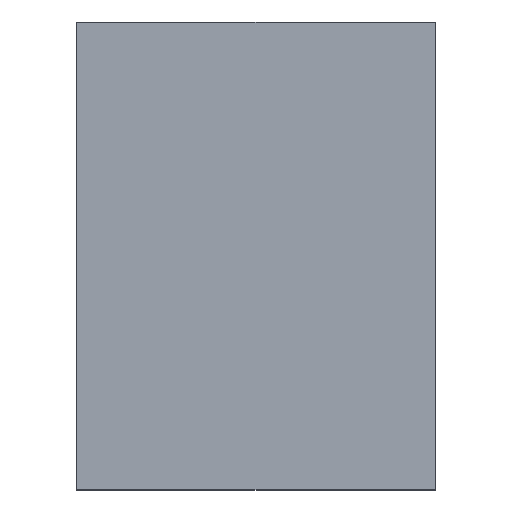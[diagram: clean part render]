
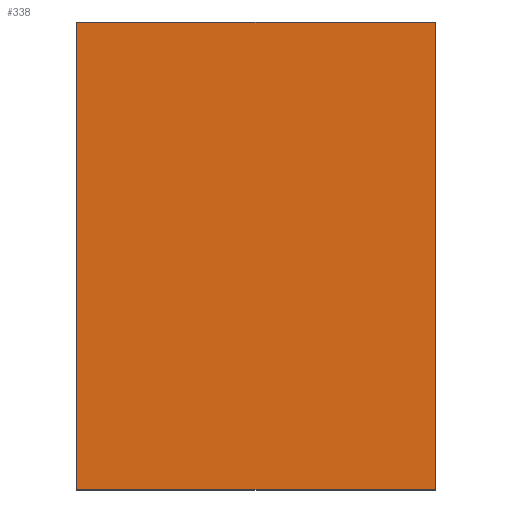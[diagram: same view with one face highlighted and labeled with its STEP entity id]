
A CAD part, top view. The second image highlights one B-rep face of the part: STEP entity #338.
In plain terms, the highlighted planar face has unit normal (0, 0, 1).
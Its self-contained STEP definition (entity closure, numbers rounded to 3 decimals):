
#24 = VERTEX_POINT('',#25);
#25 = CARTESIAN_POINT('',(-23.,-120.,40.));
#32 = PLANE('',#33);
#33 = AXIS2_PLACEMENT_3D('',#34,#35,#36);
#34 = CARTESIAN_POINT('',(-23.,-120.,6.));
#35 = DIRECTION('',(1.,0.,0.));
#36 = DIRECTION('',(0.,0.,1.));
#44 = PLANE('',#45);
#45 = AXIS2_PLACEMENT_3D('',#46,#47,#48);
#46 = CARTESIAN_POINT('',(-23.,-120.,6.));
#47 = DIRECTION('',(0.,1.,0.));
#48 = DIRECTION('',(0.,0.,1.));
#85 = VERTEX_POINT('',#86);
#86 = CARTESIAN_POINT('',(-23.,-60.,40.));
#100 = PLANE('',#101);
#101 = AXIS2_PLACEMENT_3D('',#102,#103,#104);
#102 = CARTESIAN_POINT('',(-23.,-60.,6.));
#103 = DIRECTION('',(0.,1.,0.));
#104 = DIRECTION('',(0.,0.,1.));
#112 = EDGE_CURVE('',#24,#85,#113,.T.);
#113 = SURFACE_CURVE('',#114,(#118,#125),.PCURVE_S1.);
#114 = LINE('',#115,#116);
#115 = CARTESIAN_POINT('',(-23.,-120.,40.));
#116 = VECTOR('',#117,1.);
#117 = DIRECTION('',(0.,1.,0.));
#118 = PCURVE('',#32,#119);
#119 = DEFINITIONAL_REPRESENTATION('',(#120),#124);
#120 = LINE('',#121,#122);
#121 = CARTESIAN_POINT('',(34.,0.));
#122 = VECTOR('',#123,1.);
#123 = DIRECTION('',(0.,-1.));
#124 = ( GEOMETRIC_REPRESENTATION_CONTEXT(2) 
PARAMETRIC_REPRESENTATION_CONTEXT() REPRESENTATION_CONTEXT('2D SPACE',''
  ) );
#125 = PCURVE('',#126,#131);
#126 = PLANE('',#127);
#127 = AXIS2_PLACEMENT_3D('',#128,#129,#130);
#128 = CARTESIAN_POINT('',(-23.,-120.,40.));
#129 = DIRECTION('',(0.,0.,1.));
#130 = DIRECTION('',(1.,0.,0.));
#131 = DEFINITIONAL_REPRESENTATION('',(#132),#136);
#132 = LINE('',#133,#134);
#133 = CARTESIAN_POINT('',(0.,0.));
#134 = VECTOR('',#135,1.);
#135 = DIRECTION('',(0.,1.));
#136 = ( GEOMETRIC_REPRESENTATION_CONTEXT(2) 
PARAMETRIC_REPRESENTATION_CONTEXT() REPRESENTATION_CONTEXT('2D SPACE',''
  ) );
#144 = VERTEX_POINT('',#145);
#145 = CARTESIAN_POINT('',(23.,-120.,40.));
#152 = PLANE('',#153);
#153 = AXIS2_PLACEMENT_3D('',#154,#155,#156);
#154 = CARTESIAN_POINT('',(23.,-120.,6.));
#155 = DIRECTION('',(1.,0.,0.));
#156 = DIRECTION('',(0.,0.,1.));
#195 = VERTEX_POINT('',#196);
#196 = CARTESIAN_POINT('',(23.,-60.,40.));
#217 = EDGE_CURVE('',#144,#195,#218,.T.);
#218 = SURFACE_CURVE('',#219,(#223,#230),.PCURVE_S1.);
#219 = LINE('',#220,#221);
#220 = CARTESIAN_POINT('',(23.,-120.,40.));
#221 = VECTOR('',#222,1.);
#222 = DIRECTION('',(0.,1.,0.));
#223 = PCURVE('',#152,#224);
#224 = DEFINITIONAL_REPRESENTATION('',(#225),#229);
#225 = LINE('',#226,#227);
#226 = CARTESIAN_POINT('',(34.,0.));
#227 = VECTOR('',#228,1.);
#228 = DIRECTION('',(0.,-1.));
#229 = ( GEOMETRIC_REPRESENTATION_CONTEXT(2) 
PARAMETRIC_REPRESENTATION_CONTEXT() REPRESENTATION_CONTEXT('2D SPACE',''
  ) );
#230 = PCURVE('',#126,#231);
#231 = DEFINITIONAL_REPRESENTATION('',(#232),#236);
#232 = LINE('',#233,#234);
#233 = CARTESIAN_POINT('',(46.,0.));
#234 = VECTOR('',#235,1.);
#235 = DIRECTION('',(0.,1.));
#236 = ( GEOMETRIC_REPRESENTATION_CONTEXT(2) 
PARAMETRIC_REPRESENTATION_CONTEXT() REPRESENTATION_CONTEXT('2D SPACE',''
  ) );
#263 = EDGE_CURVE('',#24,#144,#264,.T.);
#264 = SURFACE_CURVE('',#265,(#269,#276),.PCURVE_S1.);
#265 = LINE('',#266,#267);
#266 = CARTESIAN_POINT('',(-23.,-120.,40.));
#267 = VECTOR('',#268,1.);
#268 = DIRECTION('',(1.,0.,0.));
#269 = PCURVE('',#44,#270);
#270 = DEFINITIONAL_REPRESENTATION('',(#271),#275);
#271 = LINE('',#272,#273);
#272 = CARTESIAN_POINT('',(34.,0.));
#273 = VECTOR('',#274,1.);
#274 = DIRECTION('',(0.,1.));
#275 = ( GEOMETRIC_REPRESENTATION_CONTEXT(2) 
PARAMETRIC_REPRESENTATION_CONTEXT() REPRESENTATION_CONTEXT('2D SPACE',''
  ) );
#276 = PCURVE('',#126,#277);
#277 = DEFINITIONAL_REPRESENTATION('',(#278),#282);
#278 = LINE('',#279,#280);
#279 = CARTESIAN_POINT('',(0.,0.));
#280 = VECTOR('',#281,1.);
#281 = DIRECTION('',(1.,0.));
#282 = ( GEOMETRIC_REPRESENTATION_CONTEXT(2) 
PARAMETRIC_REPRESENTATION_CONTEXT() REPRESENTATION_CONTEXT('2D SPACE',''
  ) );
#310 = EDGE_CURVE('',#85,#195,#311,.T.);
#311 = SURFACE_CURVE('',#312,(#316,#323),.PCURVE_S1.);
#312 = LINE('',#313,#314);
#313 = CARTESIAN_POINT('',(-23.,-60.,40.));
#314 = VECTOR('',#315,1.);
#315 = DIRECTION('',(1.,0.,0.));
#316 = PCURVE('',#100,#317);
#317 = DEFINITIONAL_REPRESENTATION('',(#318),#322);
#318 = LINE('',#319,#320);
#319 = CARTESIAN_POINT('',(34.,0.));
#320 = VECTOR('',#321,1.);
#321 = DIRECTION('',(0.,1.));
#322 = ( GEOMETRIC_REPRESENTATION_CONTEXT(2) 
PARAMETRIC_REPRESENTATION_CONTEXT() REPRESENTATION_CONTEXT('2D SPACE',''
  ) );
#323 = PCURVE('',#126,#324);
#324 = DEFINITIONAL_REPRESENTATION('',(#325),#329);
#325 = LINE('',#326,#327);
#326 = CARTESIAN_POINT('',(0.,60.));
#327 = VECTOR('',#328,1.);
#328 = DIRECTION('',(1.,0.));
#329 = ( GEOMETRIC_REPRESENTATION_CONTEXT(2) 
PARAMETRIC_REPRESENTATION_CONTEXT() REPRESENTATION_CONTEXT('2D SPACE',''
  ) );
#338 = ADVANCED_FACE('',(#339),#126,.T.);
#339 = FACE_BOUND('',#340,.T.);
#340 = EDGE_LOOP('',(#341,#342,#343,#344));
#341 = ORIENTED_EDGE('',*,*,#112,.F.);
#342 = ORIENTED_EDGE('',*,*,#263,.T.);
#343 = ORIENTED_EDGE('',*,*,#217,.T.);
#344 = ORIENTED_EDGE('',*,*,#310,.F.);
